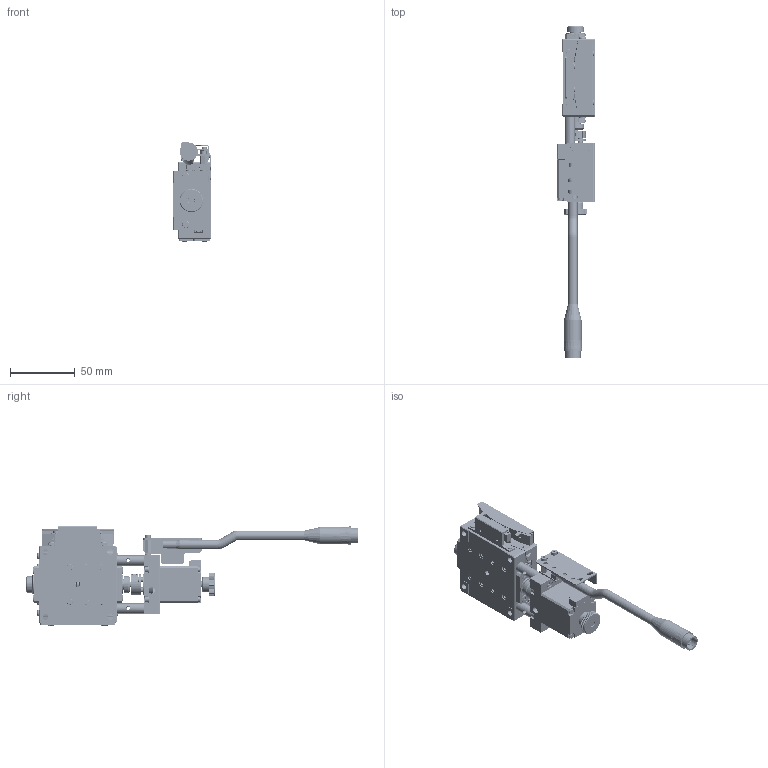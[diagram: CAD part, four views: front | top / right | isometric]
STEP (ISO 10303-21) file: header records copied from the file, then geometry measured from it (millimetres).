
FILE_DESCRIPTION (( 'STEP AP203' ), '1' );
FILE_NAME ('PT-GD06100-RC.STEP', '2026-03-30T08:27:23', ( '' ), ( '' ), 'SwSTEP 2.0', 'SolidWorks 2025', '' );
FILE_SCHEMA (( 'CONFIG_CONTROL_DESIGN' ));
Length unit declared in the file: millimetre
Products named in the file (49): PCBA-SHXL 2405 2.0_1.STEP_默认<按加工>; ____292__0.75_1.STEP_默认<按加工>; DGW60100-04B_1.STEP_默认<按加工>; ____1__0.75-D10_1.STEP_默认<按加工>; DGB-6075-15A-II_1.STEP_默认<按加工>; PCBA-SA2-R-V1.0.STEP_默认<按加工>; __________M2.5(__2.7__4.2__9.6)_________1.STEP_默认<按加工>; DGB-6075-21B_1.STEP_默认<按加工>; A-DGW60100-R__________.STEP; ZCZ8-21_1.STEP_默认<按加工>; DGB-6075-08A_1.STEP_默认<按加工>; __________________M3_M3__4________12.9___1.STEP_默认<按加工>; __________M2.5_M2.5__10+4SUS304_1.STEP_默认<按加工>; ________________M3_M3__5________12.9___1.STEP_默认<按加工>; DGB-6075-06B_1.STEP_默认<按加工>; ____CM__________M2_M2__4-______4.0__0.71_________1.STEP_默认<按加工>; A-G60R____________.STEP; ______VR2-___________VR2x10Z-113.5_1.STEP_默认<按加工>; DGW60100-02A_1.STEP_默认<按加工>; ____CM__________M2_M2__3-______5.0____1.2SUS304_____1.STEP_默认<按加工>; DGW60100-DR.STEP; HGW60100-02A_1.STEP_默认<按加工>; CS-16__17-4__5_1.STEP_默认<按加工>; __________________M2.5_M2.5__3________12.9___1.STEP_默认<按加工>; ________________M2.5_M2.5__6________12.9___1.STEP_默认<按加工>; M2.5_______M2.5__5__0.5SUS304_____1.STEP_默认<按加工>; ________________M3_M3__7________12.9___1.STEP_默认<按加工>; PKP523N12B_________________10__10_1.STEP_默认<按加工>; DGW60100-03B_1.STEP_默认<按加工>; M5X0.5-13L5_1.STEP_默认<按加工>; ________________M2_M2__4________12.9___1.STEP_默认<按加工>; ________________M2_M2__8________12.9___1.STEP_默认<按加工>; 60-113.5_1.STEP_默认<按加工>; HGW6050-03A_1.STEP_默认<按加工>; PT-GD06100-RC; __________________M3_M3__3________12.9___1.STEP_默认<按加工>; ________________M2.5_M2.5__4________12.9__.STEP_默认<按加工>; A-DGW60______R__PKP523N12B.STEP; CNT13-Z12Z-001-0.31M_1.STEP_默认<按加工>; HGW60100-01A_1.STEP_默认<按加工>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
Assembly tree (123 placements, depth 4):
  PT-GD06100-RC
    DGW60100-DR.STEP
      A-DGW60100-R__________.STEP
        HGW60100-01A_1.STEP_默认<按加工>
        HGW60100-02A_1.STEP_默认<按加工>
        __________________M3_M3__4________12.9___1.STEP_默认<按加工>  x4
        ________________M2.5_M2.5__12________12.9___1.STEP_默认<按加工>  x4
        ________________M2.5_M2.5__10________12.9___1.STEP_默认<按加工>  x12
        M2.5_______M2.5__5__0.5SUS304_____1.STEP_默认<按加工>  x8
        60-113.5_1.STEP_默认<按加工>  x4
        ____CM__________M2_M2__3-______5.0____1.2SUS304_____1.STEP_默认<按加工>  x8
        ____292__0.75_1.STEP_默认<按加工>
        ________________M2.5_M2.5__6________12.9___1.STEP_默认<按加工>  x4
        ______VR2-___________VR2x10Z-113.5_1.STEP_默认<按加工>  x2
        DGB-60100-04B_1.STEP_默认<按加工>
        DGB-60100-05B_1.STEP_默认<按加工>
        ____CM__________M2_M2__4-______4.0__0.71_________1.STEP_默认<按加工>  x4
      A-DGW60______R__PKP523N12B.STEP
        F695ZZ-____13____5__4______1-NSK_1.STEP_默认<按加工>  x2
        M5X0.5-13L5_1.STEP_默认<按加工>  x2
        HGW6050-03A_1.STEP_默认<按加工>  x2
        __________________M2.5_M2.5__3________12.9___1.STEP_默认<按加工>  x4
        ________________M3_M3__7________12.9___1.STEP_默认<按加工>  x4
        ____1__0.75-D10_1.STEP_默认<按加工>
        DGB-6075-15A-II_1.STEP_默认<按加工>
        ZCZ8-21_1.STEP_默认<按加工>  x2
        CS-16__17-4__5_1.STEP_默认<按加工>
        ________________M2.5_M2.5__12________12.9___1.STEP_默认<按加工>  x4
        ________________M3_M3__5________12.9___1.STEP_默认<按加工>  x2
        PKP523N12B_________________10__10_1.STEP_默认<按加工>
        SL18-9.5-5_1.STEP_默认<按加工>
        __________________M3_M3__3________12.9___1.STEP_默认<按加工>
        M2.5_______M2.5__5__0.5SUS304_____1.STEP_默认<按加工>  x4
        __________M2.5(__2.7__4.2__9.6)_________1.STEP_默认<按加工>
      A-G60R____________.STEP
        DGW60100-02A_1.STEP_默认<按加工>
        PCBA-SA2-R-V1.0.STEP_默认<按加工>
        ____CM__________M2_M2__4-______4.0__0.71_________1.STEP_默认<按加工>  x4
        ________2.1__3.3__0.2-304_______2.1__3.3__0.2-304_______1.STEP_默认<按加工>  x2
      A-______________DGW60100-R____6__.STEP
        DGB-6075-08A_1.STEP_默认<按加工>
        DGW60100-04B_1.STEP_默认<按加工>  x2
        DGW60100-03B_1.STEP_默认<按加工>
        ________________M2_M2__4________12.9___1.STEP_默认<按加工>  x3
        DGB-6075-06B_1.STEP_默认<按加工>
        ________________M2_M2__8________12.9___1.STEP_默认<按加工>  x2
        ____CM__________M2_M2__4-______4.0__0.71_________1.STEP_默认<按加工>  x2
      DGB-6075-LPD-NC-R________.STEP
        CNT13-Z12Z-001-0.31M_1.STEP_默认<按加工>
        DGB-6075-21B_1.STEP_默认<按加工>
        __________M2.5_M2.5__10+4SUS304_1.STEP_默认<按加工>  x2
        M2.5_______M2.5__5__0.5SUS304_____1.STEP_默认<按加工>  x2
        PCBA-SHXL 2405 2.0_1.STEP_默认<按加工>
        ________________M2.5_M2.5__4________12.9__.STEP_默认<按加工>  x2
Bounding box: 29.05 x 256.12 x 76.51 mm (x, y, z)
Volume: 142598.6 mm3; surface area: 93823.7 mm2
Topology: 143 solids, 162 shells, 5225 faces, 13216 edges, 8453 vertices
Faces by surface type: plane 2554, cylinder 1248, cone 569, bspline 526, torus 292, sphere 36
Entity records: 164128 total; most frequent: CARTESIAN_POINT 73331, ORIENTED_EDGE 18288, DIRECTION 15540, EDGE_CURVE 9146, VERTEX_POINT 5984, AXIS2_PLACEMENT_3D 5259, VECTOR 5022, LINE 5022
